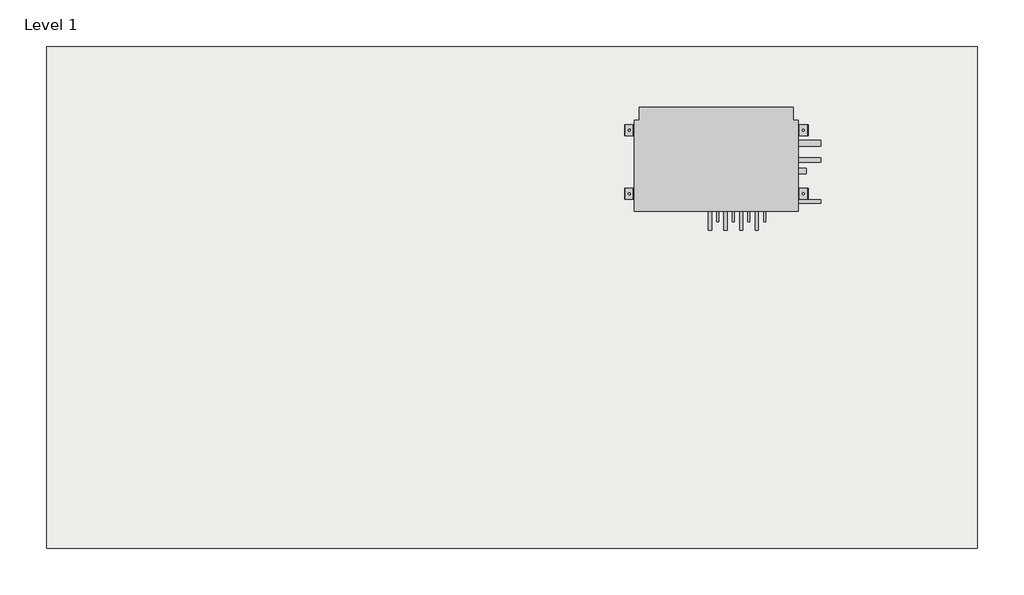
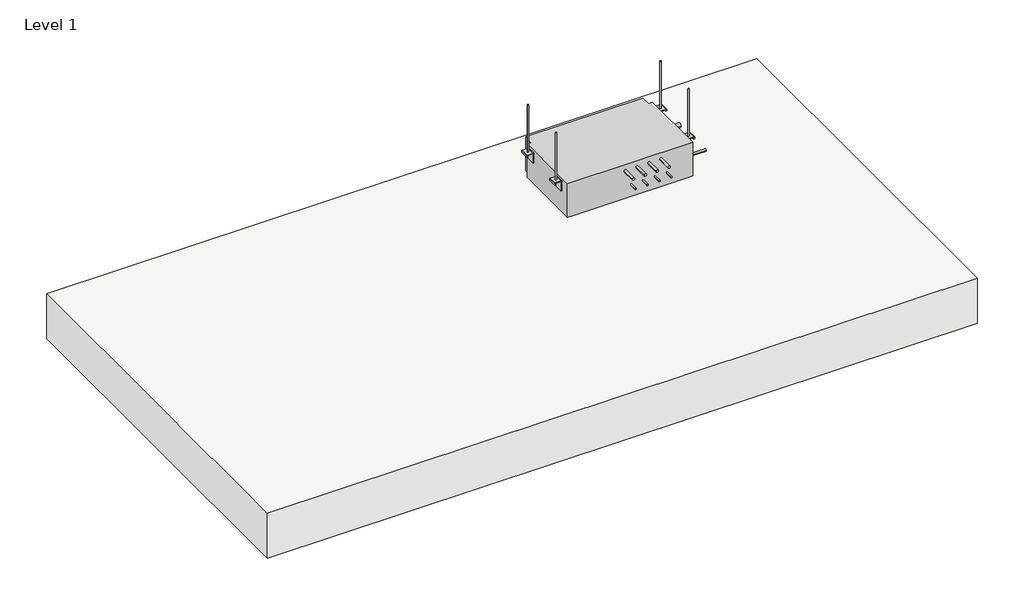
# One storey: 1 proxy, 1 slab.
"""IFC4 building model written with IfcOpenShell, lengths in millimetres."""

from ifc_helpers import new_model, si_unit, frame, origin, place, context, project, spatial, polyline, outline, extrude, transform, mapped, element, save
from components import mechanical_equipment_f876f0b1

model = new_model("IFC4")

# Units and contexts
model_context = context("Model", 3, world=origin())
ifc_project = project(units=[si_unit("LENGTHUNIT", "METRE", prefix="MILLI")], contexts=[model_context])

# Site, building, storey
site = spatial("IfcSite", under=ifc_project)
building = spatial("IfcBuilding", under=site)
storey = spatial("IfcBuildingStorey", under=building, Name="Level 1", Elevation=0.0)

# Proxy
placement = place(None, origin())
mechanical_equipment_shape = mechanical_equipment_f876f0b1(model_context)
element("IfcBuildingElementProxy", 1, Name="Lennox-VRF-Mode_Selection_Box-V8MSBB03-2P_Series : V8MSBB03", ObjectType="Lennox-VRF-Mode_Selection_Box-V8MSBB03-2P_Series : V8MSBB03", at=placement, inside=storey, context=model_context, shape_type="MappedRepresentation", body=[
    mapped(mechanical_equipment_shape, transform((4494.6811765, 1564.9378804, 0.0), x_axis=(1.0, 0.0, 0.0), y_axis=(0.0, 1.0, 0.0), z_axis=(0.0, 0.0, 1.0))),
])

# Slab
element("IfcSlab", 2, ObjectType="Generic - 12\"", at=placement, inside=storey, context=model_context, shape_type="SweptSolid", body=[
    extrude(outline(polyline([(5770.1973575, 2115.5766815), (5770.1973575, -333.5794355), (1223.5973575, -333.5794355), (1223.5973575, 2115.5766815), (5770.1973575, 2115.5766815)])), frame((0.0, 0.0, -304.8), z_axis=(0.0, 0.0, 1.0), x_axis=(1.0, 0.0, 0.0)), (0.0, 0.0, 1.0), 304.8),
])

save(model, "model.ifc")
